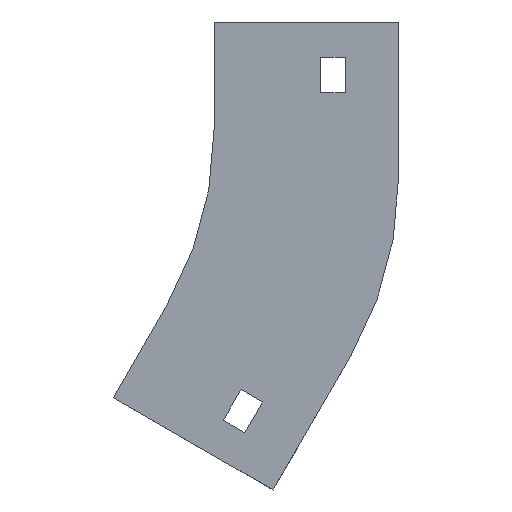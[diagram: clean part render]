
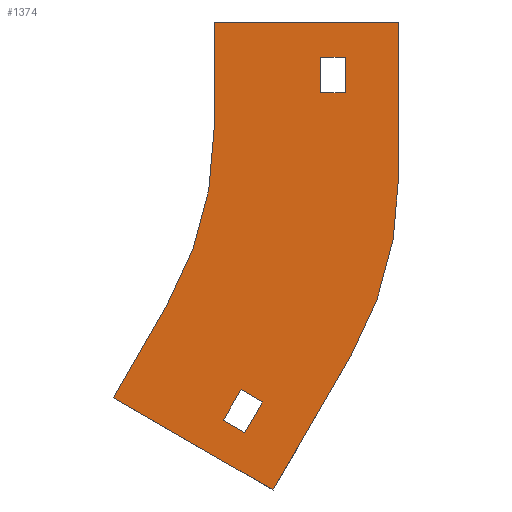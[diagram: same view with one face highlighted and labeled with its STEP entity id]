
A CAD part, left-side view. The second image highlights one B-rep face of the part: STEP entity #1374.
In plain terms, the highlighted planar face has unit normal (-1, 0, 0).
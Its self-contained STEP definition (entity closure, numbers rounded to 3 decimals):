
#1 = LINE ( 'NONE', #1192, #174 ) ;
#24 = CARTESIAN_POINT ( 'NONE',  ( -252., -7.583, -103.66 ) ) ;
#31 = EDGE_LOOP ( 'NONE', ( #1028, #190, #571, #407, #1380, #297, #142, #325 ) ) ;
#34 = CARTESIAN_POINT ( 'NONE',  ( -252., -8.645, -115.821 ) ) ;
#39 = DIRECTION ( 'NONE',  ( 0., -0.5, 0.866 ) ) ;
#52 = VECTOR ( 'NONE', #438, 1000. ) ;
#67 = CARTESIAN_POINT ( 'NONE',  ( -252., -52., -43.933 ) ) ;
#70 = VECTOR ( 'NONE', #1109, 1000. ) ;
#78 = VERTEX_POINT ( 'NONE', #1148 ) ;
#92 = LINE ( 'NONE', #67, #827 ) ;
#102 = LINE ( 'NONE', #1183, #313 ) ;
#139 = CARTESIAN_POINT ( 'NONE',  ( -252., -38.603, -93.933 ) ) ;
#142 = ORIENTED_EDGE ( 'NONE', *, *, #445, .F. ) ;
#148 = ORIENTED_EDGE ( 'NONE', *, *, #680, .T. ) ;
#171 = EDGE_CURVE ( 'NONE', #1199, #221, #102, .T. ) ;
#174 = VECTOR ( 'NONE', #659, 1000. ) ;
#178 = CARTESIAN_POINT ( 'NONE',  ( -252., 28.397, -105.981 ) ) ;
#188 = PLANE ( 'NONE',  #368 ) ;
#190 = ORIENTED_EDGE ( 'NONE', *, *, #896, .F. ) ;
#195 = CIRCLE ( 'NONE', #917, 100. ) ;
#203 = CARTESIAN_POINT ( 'NONE',  ( -252., -52., 0. ) ) ;
#211 = ORIENTED_EDGE ( 'NONE', *, *, #1059, .T. ) ;
#220 = CARTESIAN_POINT ( 'NONE',  ( -252., -2.583, -112.321 ) ) ;
#221 = VERTEX_POINT ( 'NONE', #275 ) ;
#235 = EDGE_CURVE ( 'NONE', #1115, #1311, #564, .T. ) ;
#236 = LINE ( 'NONE', #442, #1049 ) ;
#247 = DIRECTION ( 'NONE',  ( 1., 0., 0. ) ) ;
#260 = LINE ( 'NONE', #682, #70 ) ;
#275 = CARTESIAN_POINT ( 'NONE',  ( -252., -16.636, -131.981 ) ) ;
#283 = CARTESIAN_POINT ( 'NONE',  ( -252., -2.583, -112.321 ) ) ;
#286 = VERTEX_POINT ( 'NONE', #24 ) ;
#289 = FACE_OUTER_BOUND ( 'NONE', #31, .T. ) ;
#297 = ORIENTED_EDGE ( 'NONE', *, *, #171, .F. ) ;
#313 = VECTOR ( 'NONE', #961, 1000. ) ;
#318 = EDGE_CURVE ( 'NONE', #78, #1115, #965, .T. ) ;
#324 = DIRECTION ( 'NONE',  ( 0., 0., -1. ) ) ;
#325 = ORIENTED_EDGE ( 'NONE', *, *, #1341, .F. ) ;
#331 = VECTOR ( 'NONE', #335, 1000. ) ;
#335 = DIRECTION ( 'NONE',  ( 0., 1., 0. ) ) ;
#340 = CARTESIAN_POINT ( 'NONE',  ( -252., -2.583, -112.321 ) ) ;
#349 = VERTEX_POINT ( 'NONE', #859 ) ;
#362 = LINE ( 'NONE', #490, #768 ) ;
#368 = AXIS2_PLACEMENT_3D ( 'NONE', #1266, #705, #927 ) ;
#382 = EDGE_CURVE ( 'NONE', #833, #349, #431, .T. ) ;
#387 = ORIENTED_EDGE ( 'NONE', *, *, #676, .F. ) ;
#389 = FACE_BOUND ( 'NONE', #471, .T. ) ;
#394 = EDGE_CURVE ( 'NONE', #1208, #665, #195, .T. ) ;
#407 = ORIENTED_EDGE ( 'NONE', *, *, #1106, .F. ) ;
#416 = DIRECTION ( 'NONE',  ( -1., 0., 0. ) ) ;
#431 = LINE ( 'NONE', #203, #467 ) ;
#432 = CARTESIAN_POINT ( 'NONE',  ( -252., -30., -10. ) ) ;
#438 = DIRECTION ( 'NONE',  ( 0., 0.5, -0.866 ) ) ;
#442 = CARTESIAN_POINT ( 'NONE',  ( -252., 13.397, -80. ) ) ;
#445 = EDGE_CURVE ( 'NONE', #615, #1199, #848, .T. ) ;
#448 = DIRECTION ( 'NONE',  ( 0., 0., 1. ) ) ;
#467 = VECTOR ( 'NONE', #1290, 1000. ) ;
#471 = EDGE_LOOP ( 'NONE', ( #960, #148, #211, #964 ) ) ;
#480 = CARTESIAN_POINT ( 'NONE',  ( -252., -37., -10. ) ) ;
#490 = CARTESIAN_POINT ( 'NONE',  ( -252., 0., 0. ) ) ;
#513 = AXIS2_PLACEMENT_3D ( 'NONE', #570, #247, #448 ) ;
#516 = CARTESIAN_POINT ( 'NONE',  ( -252., -30., -10. ) ) ;
#537 = ORIENTED_EDGE ( 'NONE', *, *, #578, .F. ) ;
#538 = DIRECTION ( 'NONE',  ( 0., 0., -1. ) ) ;
#544 = VERTEX_POINT ( 'NONE', #283 ) ;
#548 = DIRECTION ( 'NONE',  ( 0., 0., 1. ) ) ;
#550 = EDGE_CURVE ( 'NONE', #221, #1042, #708, .T. ) ;
#551 = CARTESIAN_POINT ( 'NONE',  ( -252., -37., -10. ) ) ;
#564 = LINE ( 'NONE', #432, #1348 ) ;
#570 = CARTESIAN_POINT ( 'NONE',  ( -252., 48., -43.933 ) ) ;
#571 = ORIENTED_EDGE ( 'NONE', *, *, #394, .F. ) ;
#578 = EDGE_CURVE ( 'NONE', #544, #808, #751, .T. ) ;
#590 = LINE ( 'NONE', #1016, #823 ) ;
#615 = VERTEX_POINT ( 'NONE', #1168 ) ;
#620 = FACE_BOUND ( 'NONE', #1326, .T. ) ;
#625 = VECTOR ( 'NONE', #1186, 1000. ) ;
#659 = DIRECTION ( 'NONE',  ( 0., -1., 0. ) ) ;
#665 = VERTEX_POINT ( 'NONE', #1310 ) ;
#676 = EDGE_CURVE ( 'NONE', #286, #544, #765, .T. ) ;
#679 = ORIENTED_EDGE ( 'NONE', *, *, #1260, .F. ) ;
#680 = EDGE_CURVE ( 'NONE', #1311, #1233, #1, .T. ) ;
#682 = CARTESIAN_POINT ( 'NONE',  ( -252., -7.583, -103.66 ) ) ;
#705 = DIRECTION ( 'NONE',  ( 1., 0., 0. ) ) ;
#708 = LINE ( 'NONE', #178, #1271 ) ;
#750 = EDGE_CURVE ( 'NONE', #808, #862, #590, .T. ) ;
#751 = LINE ( 'NONE', #220, #625 ) ;
#765 = LINE ( 'NONE', #340, #52 ) ;
#768 = VECTOR ( 'NONE', #790, 1000. ) ;
#785 = VECTOR ( 'NONE', #324, 1000. ) ;
#790 = DIRECTION ( 'NONE',  ( 0., 0., 1. ) ) ;
#808 = VERTEX_POINT ( 'NONE', #34 ) ;
#823 = VECTOR ( 'NONE', #39, 1000. ) ;
#824 = CARTESIAN_POINT ( 'NONE',  ( -252., -13.645, -107.16 ) ) ;
#827 = VECTOR ( 'NONE', #1142, 1000. ) ;
#833 = VERTEX_POINT ( 'NONE', #1025 ) ;
#848 = CIRCLE ( 'NONE', #513, 100. ) ;
#859 = CARTESIAN_POINT ( 'NONE',  ( -252., -52., 0. ) ) ;
#862 = VERTEX_POINT ( 'NONE', #824 ) ;
#875 = CARTESIAN_POINT ( 'NONE',  ( -252., -30., -20. ) ) ;
#896 = EDGE_CURVE ( 'NONE', #665, #833, #362, .T. ) ;
#917 = AXIS2_PLACEMENT_3D ( 'NONE', #1052, #416, #538 ) ;
#922 = CARTESIAN_POINT ( 'NONE',  ( -252., 13.397, -80. ) ) ;
#927 = DIRECTION ( 'NONE',  ( 0., 0., -1. ) ) ;
#952 = CARTESIAN_POINT ( 'NONE',  ( -252., -30., -20. ) ) ;
#960 = ORIENTED_EDGE ( 'NONE', *, *, #235, .T. ) ;
#961 = DIRECTION ( 'NONE',  ( 0., 0.5, -0.866 ) ) ;
#964 = ORIENTED_EDGE ( 'NONE', *, *, #318, .T. ) ;
#965 = LINE ( 'NONE', #952, #331 ) ;
#1016 = CARTESIAN_POINT ( 'NONE',  ( -252., -8.645, -115.821 ) ) ;
#1025 = CARTESIAN_POINT ( 'NONE',  ( -252., 0., 0. ) ) ;
#1028 = ORIENTED_EDGE ( 'NONE', *, *, #382, .F. ) ;
#1042 = VERTEX_POINT ( 'NONE', #1261 ) ;
#1045 = DIRECTION ( 'NONE',  ( 0., 0.866, 0.5 ) ) ;
#1049 = VECTOR ( 'NONE', #1401, 1000. ) ;
#1052 = CARTESIAN_POINT ( 'NONE',  ( -252., 100., -30. ) ) ;
#1059 = EDGE_CURVE ( 'NONE', #1233, #78, #1386, .T. ) ;
#1106 = EDGE_CURVE ( 'NONE', #1042, #1208, #236, .T. ) ;
#1109 = DIRECTION ( 'NONE',  ( 0., 0.866, 0.5 ) ) ;
#1115 = VERTEX_POINT ( 'NONE', #875 ) ;
#1142 = DIRECTION ( 'NONE',  ( 0., 0., -1. ) ) ;
#1148 = CARTESIAN_POINT ( 'NONE',  ( -252., -37., -20. ) ) ;
#1168 = CARTESIAN_POINT ( 'NONE',  ( -252., -52., -43.933 ) ) ;
#1183 = CARTESIAN_POINT ( 'NONE',  ( -252., -16.636, -131.981 ) ) ;
#1186 = DIRECTION ( 'NONE',  ( 0., -0.866, -0.5 ) ) ;
#1192 = CARTESIAN_POINT ( 'NONE',  ( -252., -30., -10. ) ) ;
#1199 = VERTEX_POINT ( 'NONE', #139 ) ;
#1208 = VERTEX_POINT ( 'NONE', #922 ) ;
#1233 = VERTEX_POINT ( 'NONE', #480 ) ;
#1260 = EDGE_CURVE ( 'NONE', #862, #286, #260, .T. ) ;
#1261 = CARTESIAN_POINT ( 'NONE',  ( -252., 28.397, -105.981 ) ) ;
#1266 = CARTESIAN_POINT ( 'NONE',  ( -252., 100., -30. ) ) ;
#1271 = VECTOR ( 'NONE', #1045, 1000. ) ;
#1290 = DIRECTION ( 'NONE',  ( 0., -1., 0. ) ) ;
#1304 = ORIENTED_EDGE ( 'NONE', *, *, #750, .F. ) ;
#1310 = CARTESIAN_POINT ( 'NONE',  ( -252., 0., -30. ) ) ;
#1311 = VERTEX_POINT ( 'NONE', #516 ) ;
#1326 = EDGE_LOOP ( 'NONE', ( #537, #387, #679, #1304 ) ) ;
#1341 = EDGE_CURVE ( 'NONE', #349, #615, #92, .T. ) ;
#1348 = VECTOR ( 'NONE', #548, 1000. ) ;
#1374 = ADVANCED_FACE ( 'NONE', ( #289, #389, #620 ), #188, .F. ) ;
#1380 = ORIENTED_EDGE ( 'NONE', *, *, #550, .F. ) ;
#1386 = LINE ( 'NONE', #551, #785 ) ;
#1401 = DIRECTION ( 'NONE',  ( 0., -0.5, 0.866 ) ) ;
